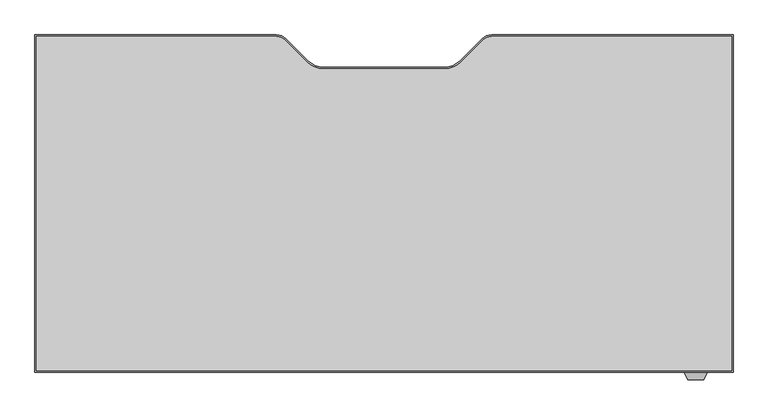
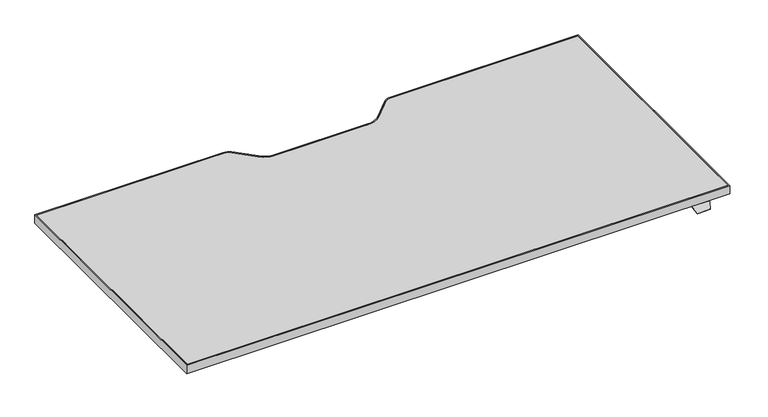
"""IFC4 building model written with IfcOpenShell, lengths in millimetres: furniture geometry, Steelcase Turnstone - Bivi - Height Adjustable Desk - C Base : 29D x 60W."""

import ifcopenshell
import ifcopenshell.guid

model = None  # the IFC model being written
_history = None  # IfcOwnerHistory: only IFC2X3 demands one
_inside = {}  # id of a spatial element -> (the spatial element, [elements in it])
_under = {}  # id of a project, library or spatial element -> (it, [spatial elements below it])
_declared = {}  # id of a project -> (the project, [libraries it declares])
_typed = {}  # id of a type object -> (the type object, [elements of that type])
_made_of = {}  # id of a material, layer set ... -> (it, [elements and type objects made of it])


def new_model(schema):
    """Start an empty IFC model of exactly this schema.

    Asked for "IFC4X3", IfcOpenShell would pick the latest addendum, in which some entities
    have other attributes; the version numbers below select the first issue.
    IFC2X3 requires an IfcOwnerHistory on every rooted entity: one is made here for all.
    """
    global model, _history
    if schema == "IFC4X3":
        model = ifcopenshell.file(schema_version=(4, 3, 0, 0))
    else:
        model = ifcopenshell.file(schema=schema)
    _inside.clear()
    _under.clear()
    _declared.clear()
    _typed.clear()
    _made_of.clear()
    _history = None
    if model.schema == "IFC2X3":
        org = make("IfcOrganization", Name="unknown")
        user = make(
            "IfcPersonAndOrganization",
            ThePerson=make("IfcPerson", FamilyName="unknown"),
            TheOrganization=org,
        )
        app = make(
            "IfcApplication",
            ApplicationDeveloper=org,
            Version="unknown",
            ApplicationFullName="unknown",
            ApplicationIdentifier="unknown",
        )
        _history = make(
            "IfcOwnerHistory",
            OwningUser=user,
            OwningApplication=app,
            ChangeAction="ADDED",
            CreationDate=0,
        )
    return model


def make(cls, **values):
    """One entity of the class cls with the attributes given. An attribute that is None is left unset."""
    return model.create_entity(
        cls, **{name: value for name, value in values.items() if value is not None}
    )


def rooted(cls, **values):
    """An entity with a GlobalId (a new one), such as an element, a storey or a relation."""
    return make(cls, GlobalId=ifcopenshell.guid.new(), OwnerHistory=_history, **values)


def si_unit(unit_type, name, prefix=None):
    """IfcSIUnit, for example si_unit("LENGTHUNIT", "METRE", prefix="MILLI")."""
    return make("IfcSIUnit", UnitType=unit_type, Prefix=prefix, Name=name)


def assignment(units):
    """IfcUnitAssignment: the units of a project."""
    return None if units is None else make("IfcUnitAssignment", Units=units)


def point(xyz):
    """IfcCartesianPoint."""
    return None if xyz is None else make("IfcCartesianPoint", Coordinates=xyz)


def direction(xyz):
    """IfcDirection."""
    return None if xyz is None else make("IfcDirection", DirectionRatios=xyz)


def frame(location, z_axis=None, x_axis=None):
    """IfcAxis2Placement3D, a coordinate frame: its origin and axes. An axis left out is left unset."""
    return make(
        "IfcAxis2Placement3D",
        Location=point(location),
        Axis=direction(z_axis),
        RefDirection=direction(x_axis),
    )


def frame_2d(location, x_axis=None):
    """IfcAxis2Placement2D, a coordinate frame in the plane: its origin and x axis."""
    return make(
        "IfcAxis2Placement2D", Location=point(location), RefDirection=direction(x_axis)
    )


def origin():
    """The frame at (0, 0, 0) with its axes left unset."""
    return frame((0.0, 0.0, 0.0))


def place(relative_to, where):
    """IfcLocalPlacement: puts the frame where relative to a parent placement (None: the world)."""
    return make(
        "IfcLocalPlacement", PlacementRelTo=relative_to, RelativePlacement=where
    )


def context(
    kind, dimensions, precision=None, world=None, true_north=None, identifier=None
):
    """IfcGeometricRepresentationContext, for example the 3D "Model" context."""
    return make(
        "IfcGeometricRepresentationContext",
        ContextIdentifier=identifier,
        ContextType=kind,
        CoordinateSpaceDimension=dimensions,
        Precision=precision,
        WorldCoordinateSystem=world,
        TrueNorth=true_north,
    )


def project(units=None, contexts=None):
    """IfcProject with its units and contexts."""
    return rooted(
        "IfcProject",
        Name="project",
        RepresentationContexts=contexts,
        UnitsInContext=assignment(units),
    )


def spatial(cls, under=None, at=None, **own):
    """A site, building, storey or space (cls), placed at a placement, below another one or the project."""
    s = rooted(cls, ObjectPlacement=at, **own)
    if under is not None:
        _under.setdefault(under.id(), (under, []))[1].append(s)
    return s


def polyline(points):
    """IfcPolyline through the points."""
    return make("IfcPolyline", Points=[point(p) for p in points])


def circle_curve(where, radius):
    """IfcCircle in the frame where."""
    return make("IfcCircle", Position=where, Radius=radius)


def trimmed(basis, trim1, trim2, sense, master):
    """IfcTrimmedCurve: the piece of a basis curve between two trims."""
    return make(
        "IfcTrimmedCurve",
        BasisCurve=basis,
        Trim1=trim1,
        Trim2=trim2,
        SenseAgreement=sense,
        MasterRepresentation=master,
    )


def segment(curve, same_sense, transition):
    """IfcCompositeCurveSegment."""
    return make(
        "IfcCompositeCurveSegment",
        Transition=transition,
        SameSense=same_sense,
        ParentCurve=curve,
    )


def composite_curve(segments, self_intersect=None):
    """IfcCompositeCurve: segments joined end to end."""
    return make("IfcCompositeCurve", Segments=segments, SelfIntersect=self_intersect)


def outline(outer, holes=None, kind="AREA"):
    """IfcArbitraryClosedProfileDef: a profile drawn as a closed curve; with holes, ...WithVoids."""
    if holes is None:
        return make("IfcArbitraryClosedProfileDef", ProfileType=kind, OuterCurve=outer)
    return make(
        "IfcArbitraryProfileDefWithVoids",
        ProfileType=kind,
        OuterCurve=outer,
        InnerCurves=holes,
    )


def extrude(swept, where, along, depth):
    """IfcExtrudedAreaSolid: the profile swept, set in the frame where, extruded along a direction by depth."""
    return make(
        "IfcExtrudedAreaSolid",
        SweptArea=swept,
        Position=where,
        ExtrudedDirection=direction(along),
        Depth=depth,
    )


def faces_of(points, faces, orient=None, outer=None):
    """IfcFace entities. A face is a list of loops; a loop is a list of indices into points, from 0.

    orient and outer hold one flag for each loop. By default every Orientation is true, the
    first loop of a face is its IfcFaceOuterBound and the others are IfcFaceBound.
    """
    made = []
    for i, loops in enumerate(faces):
        bounds = []
        for j, loop in enumerate(loops):
            is_outer = j == 0 if outer is None else outer[i][j]
            bounds.append(
                make(
                    "IfcFaceOuterBound" if is_outer else "IfcFaceBound",
                    Bound=make("IfcPolyLoop", Polygon=[points[k] for k in loop]),
                    Orientation=True if orient is None else orient[i][j],
                )
            )
        made.append(make("IfcFace", Bounds=bounds))
    return made


def faceted_brep(points, faces, orient=None, outer=None, voids=None):
    """IfcFacetedBrep: a solid bounded by flat faces; with voids (closed shells), ...WithVoids."""
    shared = [point(p) for p in points]
    hull = make("IfcClosedShell", CfsFaces=faces_of(shared, faces, orient, outer))
    if voids is None:
        return make("IfcFacetedBrep", Outer=hull)
    return make(
        "IfcFacetedBrepWithVoids",
        Outer=hull,
        Voids=[
            make(cls, CfsFaces=faces_of(shared, fs, o, b)) for cls, fs, o, b in voids
        ],
    )


def shape(context_of_items, identifier, shape_type, items):
    """IfcShapeRepresentation: the items that make up one representation, for example the "Body"."""
    return make(
        "IfcShapeRepresentation",
        ContextOfItems=context_of_items,
        RepresentationIdentifier=identifier,
        RepresentationType=shape_type,
        Items=items,
    )


def source(mapping_origin, context_of_items, identifier, shape_type, items):
    """IfcRepresentationMap: a shape defined once, which mapped items show again and again."""
    return make(
        "IfcRepresentationMap",
        MappingOrigin=mapping_origin,
        MappedRepresentation=shape(context_of_items, identifier, shape_type, items),
    )


def transform(
    local_origin,
    x_axis=None,
    y_axis=None,
    z_axis=None,
    scale=None,
    scale2=None,
    scale3=None,
    uniform=True,
):
    """IfcCartesianTransformationOperator3D, or its non-uniform kind. x_axis, y_axis, z_axis: its Axis1, 2, 3."""
    if uniform:
        return make(
            "IfcCartesianTransformationOperator3D",
            Axis1=direction(x_axis),
            Axis2=direction(y_axis),
            LocalOrigin=point(local_origin),
            Scale=scale,
            Axis3=direction(z_axis),
        )
    return make(
        "IfcCartesianTransformationOperator3DnonUniform",
        Axis1=direction(x_axis),
        Axis2=direction(y_axis),
        LocalOrigin=point(local_origin),
        Scale=scale,
        Axis3=direction(z_axis),
        Scale2=scale2,
        Scale3=scale3,
    )


def mapped(mapping_source, mapping_target):
    """IfcMappedItem: shows the shape of a source again, moved by a transform."""
    return make(
        "IfcMappedItem", MappingSource=mapping_source, MappingTarget=mapping_target
    )


def made_of(thing, what):
    """Note that an element or type object is made of a material, layer set ...; save() writes the relation."""
    if what is not None:
        _made_of.setdefault(what.id(), (what, []))[1].append(thing)
    return thing


def element(
    cls,
    number,
    at=None,
    inside=None,
    cuts=None,
    type_object=None,
    material=None,
    context=None,
    identifier="Body",
    shape_type=None,
    held_by="IfcProductDefinitionShape",
    body=None,
    shapes=None,
    **own,
):
    """One element of the class cls, such as IfcWall. Its Tag is "e" and its number.

    at: its placement. inside: the storey or other place that contains it. cuts: it is an
    opening in that element (IfcRelVoidsElement). A single representation is given by context,
    identifier, shape_type and body (its items); several are given by shapes. held_by: the class
    of the entity that holds the representations. save() writes the other relations.
    """
    e = rooted(cls, Tag="e%d" % number, ObjectPlacement=at, **own)
    if body is not None:
        shapes = [shape(context, identifier, shape_type, body)]
    if shapes is not None:
        e.Representation = make(held_by, Representations=shapes)
    if inside is not None:
        _inside.setdefault(inside.id(), (inside, []))[1].append(e)
    if cuts is not None:
        rooted(
            "IfcRelVoidsElement", RelatingBuildingElement=cuts, RelatedOpeningElement=e
        )
    if type_object is not None:
        _typed.setdefault(type_object.id(), (type_object, []))[1].append(e)
    return made_of(e, material)


def aggregate(whole, parts):
    """IfcRelAggregates: a whole, such as a stair, and the parts it consists of."""
    return rooted("IfcRelAggregates", RelatingObject=whole, RelatedObjects=parts)


def save(model, path):
    """Write the relations noted so far, then the file.

    IfcRelAggregates (storeys below a building ...), IfcRelContainedInSpatialStructure (elements
    in a storey), IfcRelDefinesByType, IfcRelAssociatesMaterial and IfcRelDeclares: one each for
    every whole, place, type object, material and project.
    """
    for whole, parts in _under.values():
        aggregate(whole, parts)
    for where, things in _inside.values():
        rooted(
            "IfcRelContainedInSpatialStructure",
            RelatedElements=things,
            RelatingStructure=where,
        )
    for kind, things in _typed.values():
        rooted("IfcRelDefinesByType", RelatedObjects=things, RelatingType=kind)
    for what, things in _made_of.values():
        rooted("IfcRelAssociatesMaterial", RelatedObjects=things, RelatingMaterial=what)
    for by, libraries in _declared.values():
        rooted("IfcRelDeclares", RelatingContext=by, RelatedDefinitions=libraries)
    model.write(path)


def furniture_6a4a3042(model_context):
    return source(origin(), model_context, "Body", "SolidModel", [
        faceted_brep([(316.0177913, -465.8301693, 760.9984131), (316.0177913, -463.3074599, 760.9984131), (316.0177913, -463.3074599, 762.4), (316.0177913, -465.8490853, 762.4), (316.0177913, -467.1594921, 761.3004382), (316.0177913, -467.1594921, 759.8829789), (266.4448135, -465.8490853, 762.4), (266.4448135, -463.3074599, 762.4), (266.4448135, -463.3074599, 760.9984131), (266.4448135, -465.8301693, 760.9984131), (266.4448135, -467.1594921, 759.8829789), (266.4448135, -467.1594921, 761.3004382), (309.0358363, -482.1323429, 748.7367246), (273.4267685, -482.1323429, 748.7367246), (273.0673686, -481.3616074, 747.9659891), (309.3952362, -481.3616074, 747.9659891)], [[[0, 1, 2, 3, 4, 5]], [[6, 7, 8, 9, 10, 11]], [[12, 13, 14, 15]], [[9, 0, 5, 15, 14, 10]], [[1, 0, 9, 8]], [[2, 1, 8, 7]], [[3, 2, 7, 6]], [[3, 6, 11, 13, 12, 4]], [[5, 4, 12, 15]], [[11, 10, 14, 13]]]),
        extrude(outline(composite_curve([segment(polyline([(-1151.2285908, 270.7509147), (-623.9070191, 270.7509147)]), True, "CONTINUOUS"), segment(trimmed(circle_curve(frame_2d((-623.9070191, 242.0489147)), 28.702), [point((-623.9070191, 270.7509147))], [point((-603.6116402, 262.3442935))], False, "CARTESIAN"), True, "CONTINUOUS"), segment(polyline([(-603.6116402, 262.3442935), (-556.0972358, 214.8298891)]), True, "CONTINUOUS"), segment(trimmed(circle_curve(frame_2d((-520.1762113, 250.7509136)), 50.8), [point((-556.0972358, 214.8298891))], [point((-520.1762113, 199.9509136))], True, "CARTESIAN"), True, "CONTINUOUS"), segment(polyline([(-520.1762113, 199.9509136), (-258.2809703, 199.9509136)]), True, "CONTINUOUS"), segment(trimmed(circle_curve(frame_2d((-258.2809703, 250.7509136)), 50.8), [point((-258.2809703, 199.9509136))], [point((-222.3599458, 214.8298891))], True, "CARTESIAN"), True, "CONTINUOUS"), segment(polyline([(-222.3599458, 214.8298891), (-174.8455414, 262.3442935)]), True, "CONTINUOUS"), segment(trimmed(circle_curve(frame_2d((-154.5501625, 242.0489147)), 28.702), [point((-174.8455414, 262.3442935))], [point((-154.5501625, 270.7509147))], False, "CARTESIAN"), True, "CONTINUOUS"), segment(polyline([(-154.5501625, 270.7509147), (372.7714092, 270.7509147), (372.7714092, -465.8490853), (-1151.2285908, -465.8490853), (-1151.2285908, 270.7509147)]), True, "CONTINUOUS")], self_intersect=False), holes=[composite_curve([segment(polyline([(-1147.8487543, 267.4489147), (-1147.8487543, -462.5470853), (369.4694092, -462.5470853), (369.4694092, 267.4489147), (-154.5501625, 267.4489147)]), True, "CONTINUOUS"), segment(trimmed(circle_curve(frame_2d((-154.5501625, 242.0489147)), 25.4), [point((-154.5501625, 267.4489147))], [point((-172.5106748, 260.0094269))], True, "CARTESIAN"), True, "CONTINUOUS"), segment(polyline([(-172.5106748, 260.0094269), (-220.527602, 211.9924998)]), True, "CONTINUOUS"), segment(trimmed(circle_curve(frame_2d((-256.4486265, 247.9135242)), 50.8), [point((-220.527602, 211.9924998))], [point((-256.4486265, 197.1135242))], False, "CARTESIAN"), True, "CONTINUOUS"), segment(polyline([(-256.4486265, 197.1135242), (-389.2285908, 197.1135242), (-522.0085552, 197.1135242)]), True, "CONTINUOUS"), segment(trimmed(circle_curve(frame_2d((-522.0085552, 247.9135242)), 50.8), [point((-522.0085552, 197.1135242))], [point((-557.9295796, 211.9924998))], False, "CARTESIAN"), True, "CONTINUOUS"), segment(polyline([(-557.9295796, 211.9924998), (-605.9465068, 260.0094269)]), True, "CONTINUOUS"), segment(trimmed(circle_curve(frame_2d((-623.9070191, 242.0489147)), 25.4), [point((-605.9465068, 260.0094269))], [point((-623.9070191, 267.4489147))], True, "CARTESIAN"), True, "CONTINUOUS"), segment(polyline([(-623.9070191, 267.4489147), (-1147.8487543, 267.4489147)]), True, "CONTINUOUS")], self_intersect=False)]), frame((0.0, 0.0, 762.4), z_axis=(0.0, 0.0, 1.0), x_axis=(1.0, 0.0, 0.0)), (0.0, 0.0, 1.0), 25.0),
        extrude(outline(composite_curve([segment(polyline([(-1147.8487543, 267.4489147), (-623.9070191, 267.4489147)]), True, "CONTINUOUS"), segment(trimmed(circle_curve(frame_2d((-623.9070191, 242.0489147)), 25.4), [point((-623.9070191, 267.4489147))], [point((-605.9465068, 260.0094269))], False, "CARTESIAN"), True, "CONTINUOUS"), segment(polyline([(-605.9465068, 260.0094269), (-557.9295796, 211.9924998)]), True, "CONTINUOUS"), segment(trimmed(circle_curve(frame_2d((-522.0085552, 247.9135242)), 50.8), [point((-557.9295796, 211.9924998))], [point((-522.0085552, 197.1135242))], True, "CARTESIAN"), True, "CONTINUOUS"), segment(polyline([(-522.0085552, 197.1135242), (-389.2285908, 197.1135242), (-256.4486265, 197.1135242)]), True, "CONTINUOUS"), segment(trimmed(circle_curve(frame_2d((-256.4486265, 247.9135242)), 50.8), [point((-256.4486265, 197.1135242))], [point((-220.527602, 211.9924998))], True, "CARTESIAN"), True, "CONTINUOUS"), segment(polyline([(-220.527602, 211.9924998), (-172.5106748, 260.0094269)]), True, "CONTINUOUS"), segment(trimmed(circle_curve(frame_2d((-154.5501625, 242.0489147)), 25.4), [point((-172.5106748, 260.0094269))], [point((-154.5501625, 267.4489147))], False, "CARTESIAN"), True, "CONTINUOUS"), segment(polyline([(-154.5501625, 267.4489147), (369.4694092, 267.4489147), (369.4694092, -462.5470853), (-1147.8487543, -462.5470853), (-1147.8487543, 267.4489147)]), True, "CONTINUOUS")], self_intersect=False)), frame((0.0, 0.0, 762.4), z_axis=(0.0, 0.0, 1.0), x_axis=(1.0, 0.0, 0.0)), (0.0, 0.0, 1.0), 25.0),
    ])


if __name__ == "__main__":
    model = new_model("IFC4")
    model_context = context("Model", 3, world=origin())
    ifc_project = project(units=[si_unit("LENGTHUNIT", "METRE", prefix="MILLI")], contexts=[model_context])
    site = spatial("IfcSite", under=ifc_project)
    building = spatial("IfcBuilding", under=site)
    placement = place(None, origin())
    furniture_shape = furniture_6a4a3042(model_context)
    element("IfcFurniture", 1, ObjectType="Steelcase Turnstone - Bivi - Height Adjustable Desk - C Base : 29D x 60W", at=placement, inside=building, context=model_context, shape_type="MappedRepresentation", body=[
        mapped(furniture_shape, transform((0.0, 0.0, 0.0), x_axis=(1.0, 0.0, 0.0), y_axis=(0.0, 1.0, 0.0), z_axis=(0.0, 0.0, 1.0))),
    ])
    save(model, "model.ifc")
